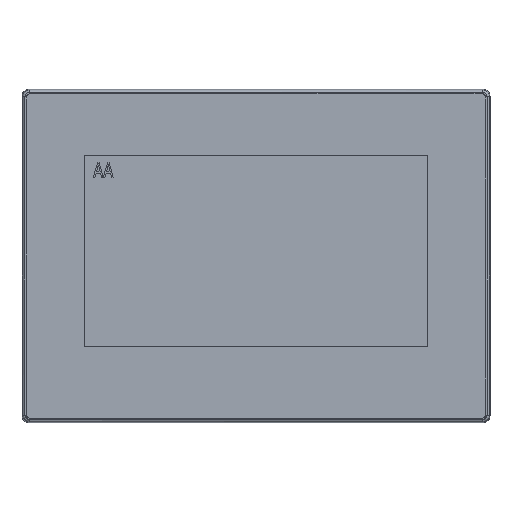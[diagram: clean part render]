
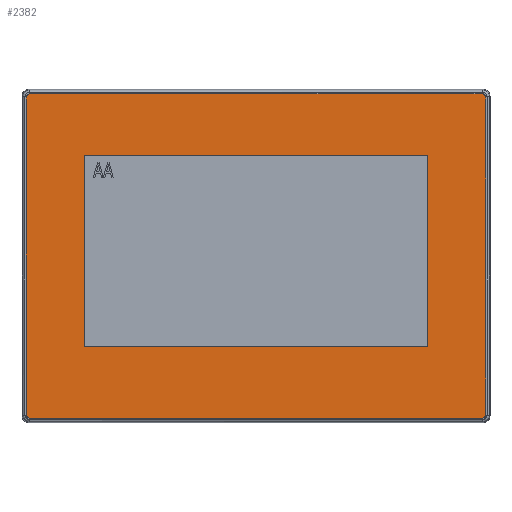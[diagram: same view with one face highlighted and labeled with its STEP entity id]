
A CAD part, top view. The second image highlights one B-rep face of the part: STEP entity #2382.
In plain terms, the highlighted planar face has unit normal (0, 0, 1).
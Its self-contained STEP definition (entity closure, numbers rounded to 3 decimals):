
#454=(
BOUNDED_CURVE()
B_SPLINE_CURVE(3,(#26836,#26837,#26838,#26839,#26840,#26841,#26842,#26843,
#26844,#26845,#26846,#26847,#26848,#26849,#26850,#26851,#26852,#26853,#26854,
#26855,#26856,#26857,#26858,#26859,#26860),.UNSPECIFIED.,.T.,.F.)
B_SPLINE_CURVE_WITH_KNOTS((1,3,3,3,3,3,3,3,3,3,1),(-0.003,0.,
0.382,0.387,0.603,0.607,
0.854,0.858,0.997,1.,1.382),
 .UNSPECIFIED.)
CURVE()
GEOMETRIC_REPRESENTATION_ITEM()
RATIONAL_B_SPLINE_CURVE((1.,1.,1.,1.,0.805,0.805,
1.,1.,1.,1.,0.805,0.805,1.,1.,1.,1.,0.805,
0.805,1.,1.,1.,1.,0.805,0.805,1.))
REPRESENTATION_ITEM('')
);
#1564=FACE_OUTER_BOUND('',#4142,.T.);
#2382=ADVANCED_FACE('',(#1564),#2890,.T.);
#2890=PLANE('',#17431);
#4142=EDGE_LOOP('',(#8990));
#8990=ORIENTED_EDGE('',*,*,#12851,.F.);
#10642=VERTEX_POINT('',#26861);
#12851=EDGE_CURVE('',#10642,#10642,#454,.T.);
#17431=AXIS2_PLACEMENT_3D('',#26913,#21640,#21641);
#21640=DIRECTION('',(0.,0.,1.));
#21641=DIRECTION('',(0.,1.,0.));
#26836=CARTESIAN_POINT('',(-101.1,72.85,5.65));
#26837=CARTESIAN_POINT('',(-33.7,72.85,5.65));
#26838=CARTESIAN_POINT('',(33.7,72.85,5.65));
#26839=CARTESIAN_POINT('',(101.1,72.85,5.65));
#26840=CARTESIAN_POINT('',(102.272,72.85,5.65));
#26841=CARTESIAN_POINT('',(103.1,72.022,5.65));
#26842=CARTESIAN_POINT('',(103.1,70.85,5.65));
#26843=CARTESIAN_POINT('',(103.1,23.617,5.65));
#26844=CARTESIAN_POINT('',(103.1,-23.617,5.65));
#26845=CARTESIAN_POINT('',(103.1,-70.85,5.65));
#26846=CARTESIAN_POINT('',(103.1,-72.022,5.65));
#26847=CARTESIAN_POINT('',(102.272,-72.85,5.65));
#26848=CARTESIAN_POINT('',(101.1,-72.85,5.65));
#26849=CARTESIAN_POINT('',(33.7,-72.85,5.65));
#26850=CARTESIAN_POINT('',(-33.7,-72.85,5.65));
#26851=CARTESIAN_POINT('',(-101.1,-72.85,5.65));
#26852=CARTESIAN_POINT('',(-102.272,-72.85,5.65));
#26853=CARTESIAN_POINT('',(-103.1,-72.022,5.65));
#26854=CARTESIAN_POINT('',(-103.1,-70.85,5.65));
#26855=CARTESIAN_POINT('',(-103.1,-23.617,5.65));
#26856=CARTESIAN_POINT('',(-103.1,23.617,5.65));
#26857=CARTESIAN_POINT('',(-103.1,70.85,5.65));
#26858=CARTESIAN_POINT('',(-103.1,72.022,5.65));
#26859=CARTESIAN_POINT('',(-102.272,72.85,5.65));
#26860=CARTESIAN_POINT('',(-101.1,72.85,5.65));
#26861=CARTESIAN_POINT('',(-101.1,72.85,5.65));
#26913=CARTESIAN_POINT('',(103.1,-3.321,5.65));
